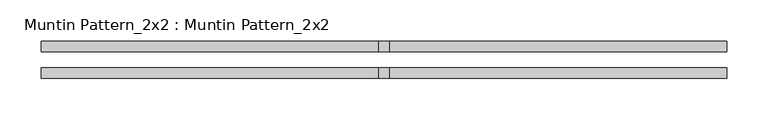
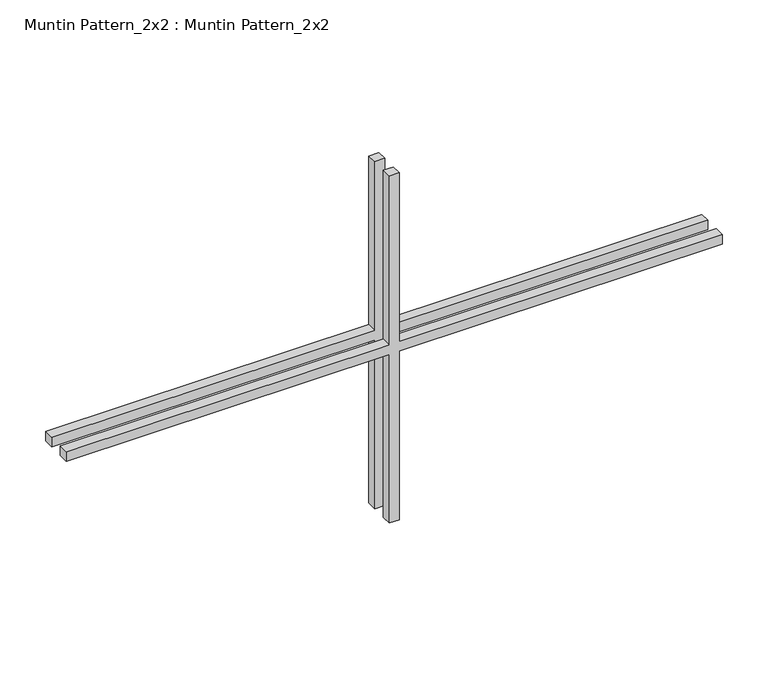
"""IFC4 building model written with IfcOpenShell, lengths in millimetres: proxy geometry, Muntin Pattern_2x2 : Muntin Pattern_2x2."""

from ifc_helpers import new_model, si_unit, frame, origin, place, context, project, spatial, polyline, outline, extrude, source, transform, mapped, element, save


def muntin_pattern_2x2_muntin_pattern_2x2_9f8866d9(model_context):
    return source(origin(), model_context, "Body", "SweptSolid", [
        extrude(outline(polyline([(238.125, -6.35), (238.125, -414.3375), (225.425, -414.3375), (225.425, -6.35), (0.0, -6.35), (0.0, 6.35), (225.425, 6.35), (225.425, 414.3375), (238.125, 414.3375), (238.125, 6.35), (463.55, 6.35), (463.55, -6.35), (238.125, -6.35)])), frame((0.0, 9.525, 0.0), z_axis=(0.0, 1.0, 0.0), x_axis=(0.0, 0.0, 1.0)), (0.0, 0.0, 1.0), 12.7),
        extrude(outline(polyline([(238.125, -6.35), (238.125, -414.3375), (225.425, -414.3375), (225.425, -6.35), (0.0, -6.35), (0.0, 6.35), (225.425, 6.35), (225.425, 414.3375), (238.125, 414.3375), (238.125, 6.35), (463.55, 6.35), (463.55, -6.35), (238.125, -6.35)])), frame((0.0, -22.225, 0.0), z_axis=(0.0, 1.0, 0.0), x_axis=(0.0, 0.0, 1.0)), (0.0, 0.0, 1.0), 12.7),
    ])


if __name__ == "__main__":
    model = new_model("IFC4")
    model_context = context("Model", 3, world=origin())
    ifc_project = project(units=[si_unit("LENGTHUNIT", "METRE", prefix="MILLI")], contexts=[model_context])
    site = spatial("IfcSite", under=ifc_project)
    building = spatial("IfcBuilding", under=site)
    placement = place(None, origin())
    muntin_pattern_2x2_muntin_pattern_2x2_shape = muntin_pattern_2x2_muntin_pattern_2x2_9f8866d9(model_context)
    element("IfcBuildingElementProxy", 1, Name="Muntin Pattern_2x2 : Muntin Pattern_2x2", ObjectType="Muntin Pattern_2x2 : Muntin Pattern_2x2", at=placement, inside=building, context=model_context, shape_type="MappedRepresentation", body=[
        mapped(muntin_pattern_2x2_muntin_pattern_2x2_shape, transform((0.0, 0.0, 0.0), x_axis=(1.0, 0.0, 0.0), y_axis=(0.0, 1.0, 0.0), z_axis=(0.0, 0.0, 1.0))),
    ])
    save(model, "model.ifc")
